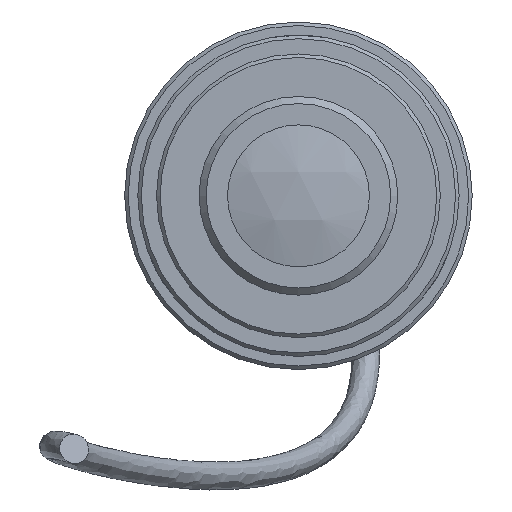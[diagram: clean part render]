
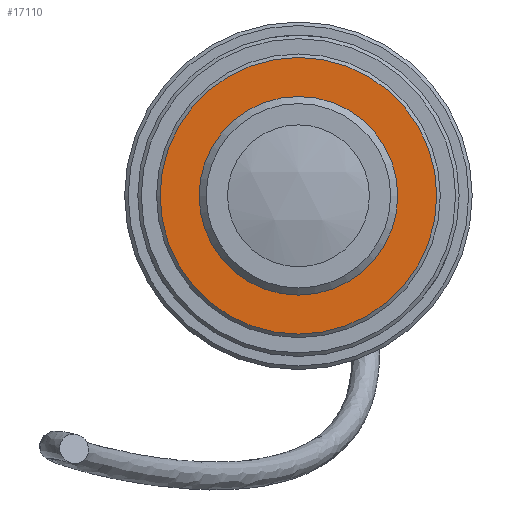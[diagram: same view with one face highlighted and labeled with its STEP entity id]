
A CAD part, front view. The second image highlights one B-rep face of the part: STEP entity #17110.
In plain terms, the highlighted planar face has unit normal (0, -1, 0).
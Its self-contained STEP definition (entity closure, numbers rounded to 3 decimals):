
#155=FACE_BOUND('',#5412,.T.);
#3877=PLANE('',#18166);
#4487=FACE_OUTER_BOUND('',#5411,.T.);
#5411=EDGE_LOOP('',(#11726));
#5412=EDGE_LOOP('',(#11727,#11728));
#6453=CIRCLE('',#18133,14.);
#6454=CIRCLE('',#18134,14.);
#6476=CIRCLE('',#18165,19.5);
#7193=VERTEX_POINT('',#35974);
#7194=VERTEX_POINT('',#35976);
#7217=VERTEX_POINT('',#36073);
#8926=EDGE_CURVE('',#7194,#7193,#6453,.T.);
#8927=EDGE_CURVE('',#7193,#7194,#6454,.T.);
#8958=EDGE_CURVE('',#7217,#7217,#6476,.T.);
#11726=ORIENTED_EDGE('',*,*,#8958,.F.);
#11727=ORIENTED_EDGE('',*,*,#8926,.T.);
#11728=ORIENTED_EDGE('',*,*,#8927,.T.);
#17110=ADVANCED_FACE('',(#4487,#155),#3877,.T.);
#18133=AXIS2_PLACEMENT_3D('',#35977,#20102,#20103);
#18134=AXIS2_PLACEMENT_3D('',#35978,#20104,#20105);
#18165=AXIS2_PLACEMENT_3D('',#36075,#20173,#20174);
#18166=AXIS2_PLACEMENT_3D('',#36076,#20175,#20176);
#20102=DIRECTION('center_axis',(0.,1.,0.));
#20103=DIRECTION('ref_axis',(0.,0.,
1.));
#20104=DIRECTION('center_axis',(0.,1.,0.));
#20105=DIRECTION('ref_axis',(0.,0.,
1.));
#20173=DIRECTION('center_axis',(0.,1.,0.));
#20174=DIRECTION('ref_axis',(0.,0.,
1.));
#20175=DIRECTION('center_axis',(0.,-1.,0.));
#20176=DIRECTION('ref_axis',(1.,0.,0.));
#35974=CARTESIAN_POINT('',(0.,-47.,14.));
#35976=CARTESIAN_POINT('',(0.,-47.,-14.));
#35977=CARTESIAN_POINT('Origin',(0.,-47.,
0.));
#35978=CARTESIAN_POINT('Origin',(0.,-47.,
0.));
#36073=CARTESIAN_POINT('',(0.,-47.,-19.5));
#36075=CARTESIAN_POINT('Origin',(0.,-47.,
0.));
#36076=CARTESIAN_POINT('Origin',(0.,-47.,
-20.));
